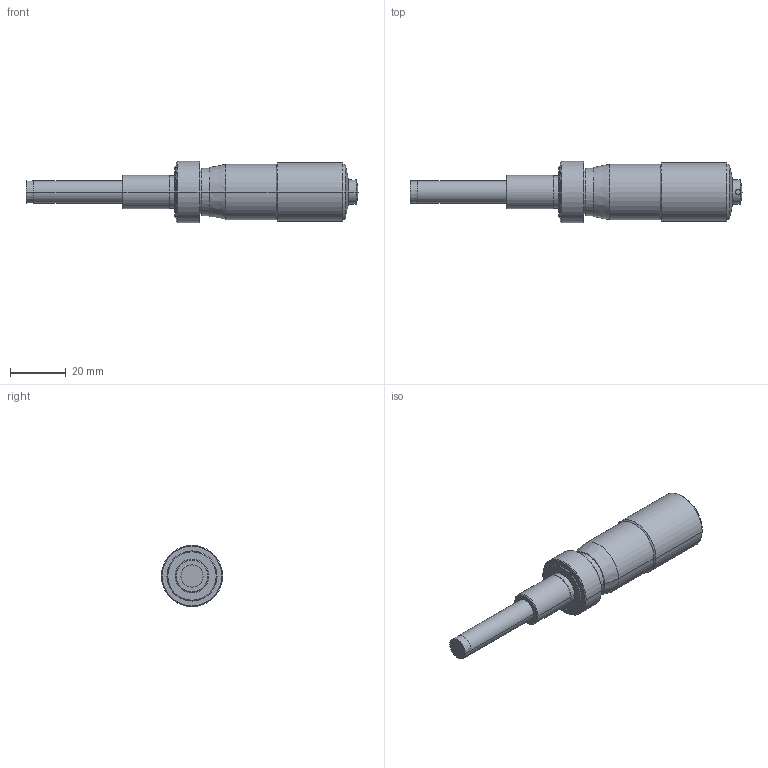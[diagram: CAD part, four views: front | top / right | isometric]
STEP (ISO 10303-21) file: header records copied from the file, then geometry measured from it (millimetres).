
FILE_DESCRIPTION(('Creo Elements/Direct Modeling STEP Export'),'2;1');
FILE_NAME('151-225_MHH1-25LT.stp','2014-11-19T15:33:36',(''),(''),'Creo Elements/Direct Modeling STEP processor for AP214 (Solid Model)','Creo Elements/Direct Modeling 18.1B 29-Sep-2012 (C) Parametric Technology GmbH','');
FILE_SCHEMA(('AUTOMOTIVE_DESIGN { 1 0 10303 214 1 1 1 1 }'));
Length unit declared in the file: millimetre
Products named in the file (2): 151-225_MHH1-25LT.prt; 151-225_MHH1-25LT.stp
Assembly tree (1 placements, depth 2):
  151-225_MHH1-25LT.stp
    151-225_MHH1-25LT.prt
Bounding box: 119.5 x 22 x 22 mm (x, y, z)
Volume: 24297.3 mm3; surface area: 6506.5 mm2
Topology: 1 solids, 1 shells, 52 faces, 105 edges, 61 vertices
Faces by surface type: cylinder 22, cone 18, plane 10, sphere 2
Entity records: 1334 total; most frequent: CARTESIAN_POINT 225, DIRECTION 212, ORIENTED_EDGE 206, EDGE_CURVE 103, AXIS2_PLACEMENT_3D 86, VERTEX_POINT 61, EDGE_LOOP 60, FACE_OUTER_BOUND 52
